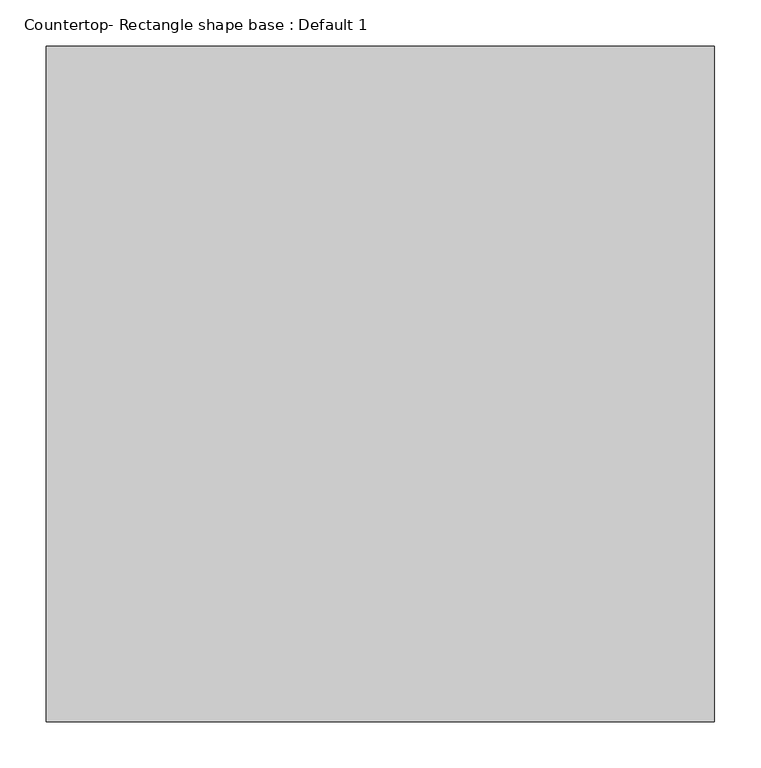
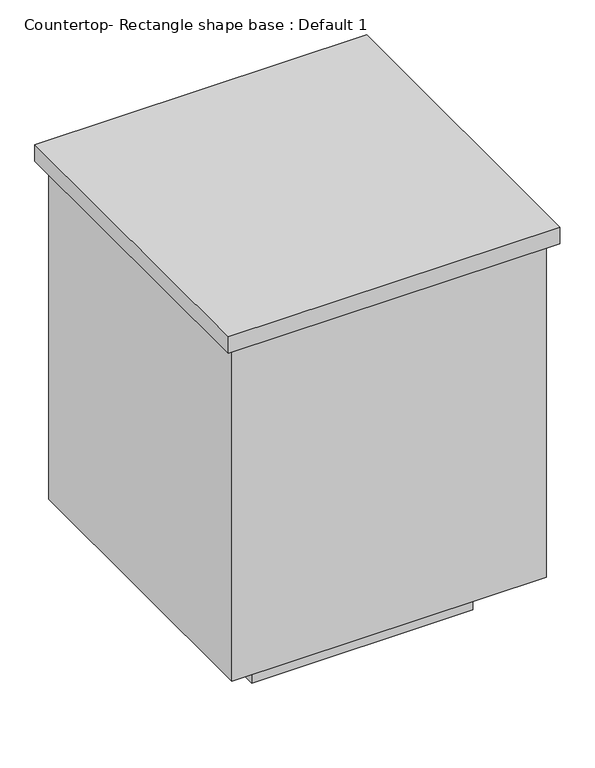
"""IFC4 building model written with IfcOpenShell, lengths in millimetres: proxy geometry, Countertop- Rectangle shape base : Default 1."""

from ifc_helpers import new_model, si_unit, frame, origin, origin_with_axes, place, context, project, spatial, polyline, outline, extrude, source, transform, mapped, element, save


def countertop_rectangle_shape_base_default_1_d0c3f7c2(model_context):
    return source(origin(), model_context, "Body", "SweptSolid", [
        extrude(outline(polyline([(400.05, 15.3978077), (400.05, 746.6021923), (1123.95, 746.6021923), (1123.95, 15.3978077), (400.05, 15.3978077)])), frame((0.0, 0.0, 876.3), z_axis=(0.0, 0.0, 1.0), x_axis=(1.0, 0.0, 0.0)), (0.0, 0.0, 1.0), 38.1),
        extrude(outline(polyline([(1104.9, 727.5521923), (1104.9, 34.4478077), (419.1, 34.4478077), (419.1, 727.5521923), (1104.9, 727.5521923)])), frame((0.0, 0.0, 101.6), z_axis=(0.0, 0.0, 1.0), x_axis=(1.0, 0.0, 0.0)), (0.0, 0.0, 1.0), 774.7),
        extrude(outline(polyline([(1003.3, 625.9521923), (1003.3, 136.0478077), (520.7, 136.0478077), (520.7, 625.9521923), (1003.3, 625.9521923)])), origin_with_axes(), (0.0, 0.0, 1.0), 101.6),
    ])


if __name__ == "__main__":
    model = new_model("IFC4")
    model_context = context("Model", 3, world=origin())
    ifc_project = project(units=[si_unit("LENGTHUNIT", "METRE", prefix="MILLI")], contexts=[model_context])
    site = spatial("IfcSite", under=ifc_project)
    building = spatial("IfcBuilding", under=site)
    placement = place(None, origin())
    countertop_rectangle_shape_base_default_1_shape = countertop_rectangle_shape_base_default_1_d0c3f7c2(model_context)
    element("IfcBuildingElementProxy", 1, Name="Countertop- Rectangle shape base : Default 1", ObjectType="Countertop- Rectangle shape base : Default 1", at=placement, inside=building, context=model_context, shape_type="MappedRepresentation", body=[
        mapped(countertop_rectangle_shape_base_default_1_shape, transform((0.0, 0.0, 0.0), x_axis=(1.0, 0.0, 0.0), y_axis=(0.0, 1.0, 0.0), z_axis=(0.0, 0.0, 1.0))),
    ])
    save(model, "model.ifc")
